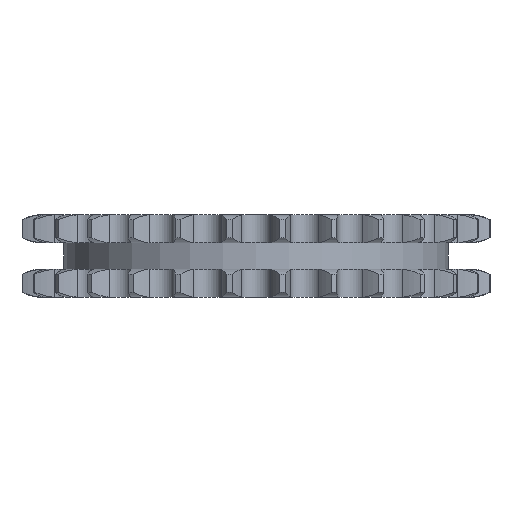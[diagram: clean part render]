
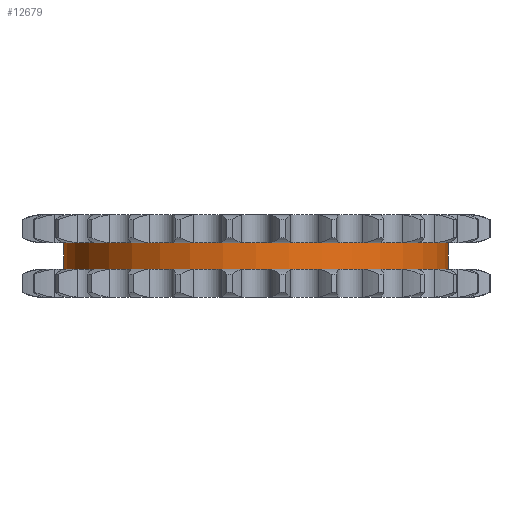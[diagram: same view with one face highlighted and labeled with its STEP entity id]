
A CAD part, left-side view. The second image highlights one B-rep face of the part: STEP entity #12679.
In plain terms, the highlighted cylindrical face has radius 48.714 mm (diameter 97.429 mm), a partial arc.
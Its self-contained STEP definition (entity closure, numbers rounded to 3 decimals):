
#2748=DIRECTION('',(0.,0.,-1.));
#2749=VECTOR('',#2748,6.6);
#2750=CARTESIAN_POINT('',(0.,48.714,3.3));
#2751=LINE('',#2750,#2749);
#2755=CARTESIAN_POINT('',(0.,0.,3.3));
#2756=DIRECTION('',(0.,0.,1.));
#2757=DIRECTION('',(0.,1.,0.));
#2758=AXIS2_PLACEMENT_3D('',#2755,#2756,#2757);
#2763=DIRECTION('',(0.,0.,-1.));
#2764=VECTOR('',#2763,6.6);
#2765=CARTESIAN_POINT('',(0.,-48.714,3.3));
#2766=LINE('',#2765,#2764);
#2770=CARTESIAN_POINT('',(0.,0.,-3.3));
#2771=DIRECTION('',(0.,0.,1.));
#2772=DIRECTION('',(0.,1.,0.));
#2773=AXIS2_PLACEMENT_3D('',#2770,#2771,#2772);
#10022=CARTESIAN_POINT('',(0.,48.714,3.3));
#10023=CARTESIAN_POINT('',(0.,48.714,-3.3));
#10024=VERTEX_POINT('',#10022);
#10025=VERTEX_POINT('',#10023);
#10026=CARTESIAN_POINT('',(0.,-48.714,3.3));
#10027=CARTESIAN_POINT('',(0.,-48.714,-3.3));
#10028=VERTEX_POINT('',#10026);
#10029=VERTEX_POINT('',#10027);
#12667=CARTESIAN_POINT('',(0.,0.,3.63));
#12668=DIRECTION('',(0.,0.,-1.));
#12669=DIRECTION('',(0.,-1.,0.));
#12670=AXIS2_PLACEMENT_3D('',#12667,#12668,#12669);
#12671=CYLINDRICAL_SURFACE('',#12670,48.714);
#12672=ORIENTED_EDGE('',*,*,#12657,.F.);
#12673=ORIENTED_EDGE('',*,*,#12647,.T.);
#12674=ORIENTED_EDGE('',*,*,#12661,.T.);
#12676=ORIENTED_EDGE('',*,*,#12675,.F.);
#12677=EDGE_LOOP('',(#12672,#12673,#12674,#12676));
#12678=FACE_OUTER_BOUND('',#12677,.F.);
#12679=ADVANCED_FACE('',(#12678),#12671,.T.);
#2759=CIRCLE('',#2758,48.714);
#2774=CIRCLE('',#2773,48.714);
#12647=EDGE_CURVE('',#10024,#10028,#2759,.T.);
#12657=EDGE_CURVE('',#10024,#10025,#2751,.T.);
#12661=EDGE_CURVE('',#10028,#10029,#2766,.T.);
#12675=EDGE_CURVE('',#10025,#10029,#2774,.T.);
